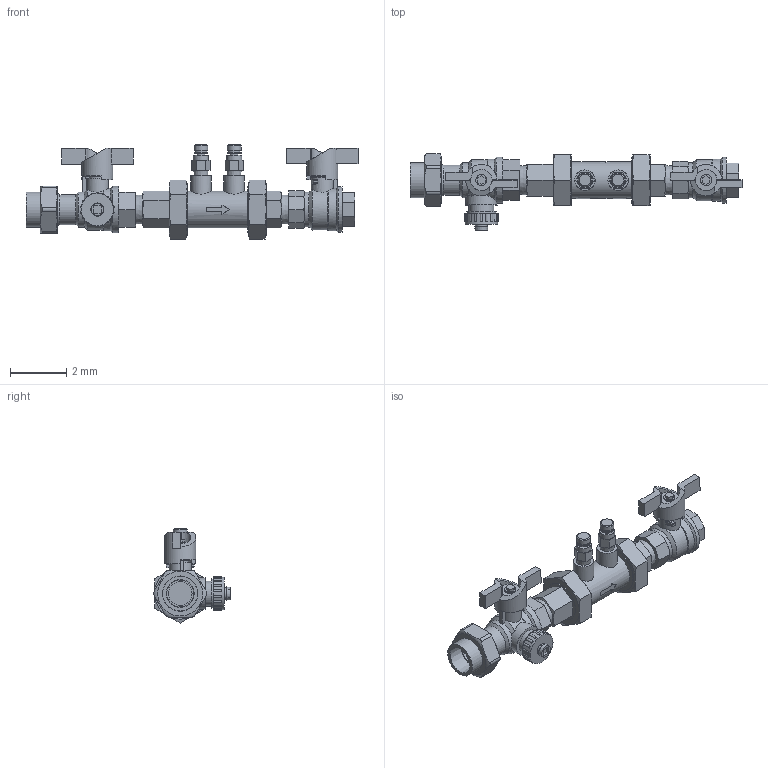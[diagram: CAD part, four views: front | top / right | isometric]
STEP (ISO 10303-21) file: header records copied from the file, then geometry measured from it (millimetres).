
FILE_DESCRIPTION(('Open CASCADE Model'),'2;1');
FILE_NAME('Open CASCADE Shape Model','2021-09-29T15:25:23',('Author'),( 'Open CASCADE'),'Open CASCADE STEP processor 7.3','Open CASCADE 7.3' ,'Unknown');
FILE_SCHEMA(('AUTOMOTIVE_DESIGN { 1 0 10303 214 1 1 1 1 }'));
Length unit declared in the file: millimetre
Products named in the file (13): Open CASCADE STEP translator 7.3 1; Open CASCADE STEP translator 7.3 1.1; Open CASCADE STEP translator 7.3 1.2; Open CASCADE STEP translator 7.3 1.2.1; Open CASCADE STEP translator 7.3 1.2.2; Open CASCADE STEP translator 7.3 1.2.3; Open CASCADE STEP translator 7.3 1.2.4; Open CASCADE STEP translator 7.3 1.2.5; Open CASCADE STEP translator 7.3 1.2.6; Open CASCADE STEP translator 7.3 1.2.7; Open CASCADE STEP translator 7.3 1.2.8; Open CASCADE STEP translator 7.3 1.2.9; Open CASCADE STEP translator 7.3 1.2.10
Assembly tree (12 placements, depth 3):
  Open CASCADE STEP translator 7.3 1
    Open CASCADE STEP translator 7.3 1.1
    Open CASCADE STEP translator 7.3 1.2
      Open CASCADE STEP translator 7.3 1.2.1
      Open CASCADE STEP translator 7.3 1.2.2
      Open CASCADE STEP translator 7.3 1.2.3
      Open CASCADE STEP translator 7.3 1.2.4
      Open CASCADE STEP translator 7.3 1.2.5
      Open CASCADE STEP translator 7.3 1.2.6
      Open CASCADE STEP translator 7.3 1.2.7
      Open CASCADE STEP translator 7.3 1.2.8
      Open CASCADE STEP translator 7.3 1.2.9
      Open CASCADE STEP translator 7.3 1.2.10
Bounding box: 11.77 x 2.72 x 3.34 mm (x, y, z)
Volume: 16.1 mm3; surface area: 148.9 mm2
Topology: 2 solids, 29 shells, 673 faces, 1612 edges, 1056 vertices
Faces by surface type: plane 384, cylinder 152, cone 114, torus 15, bspline 4, sphere 4
Full cylindrical faces by diameter (mm): 0.1 x2, 0.15 x2, 0.165 x2, 0.175 x2, 0.2 x1, 0.205 x1, 0.255 x1, 0.3 x2, 0.33 x4, 0.385 x2, 0.4 x2, 0.42 x1, 0.44 x2, 0.49 x4, 0.5 x1, 0.538 x2, 0.545 x1, 0.578 x2, 0.595 x1, 0.66 x2, 0.72 x2, 0.745 x1, 0.765 x1, 0.77 x2, 0.787 x1, 0.791 x3, 0.811 x1, 0.84 x1, 0.863 x2, 0.885 x1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
Entity records: 50498 total; most frequent: CARTESIAN_POINT 19315, DIRECTION 5613, ORIENTED_EDGE 3190, PCURVE 3190, DEFINITIONAL_REPRESENTATION 3190, LINE 2813, VECTOR 2813, EDGE_CURVE 1610
